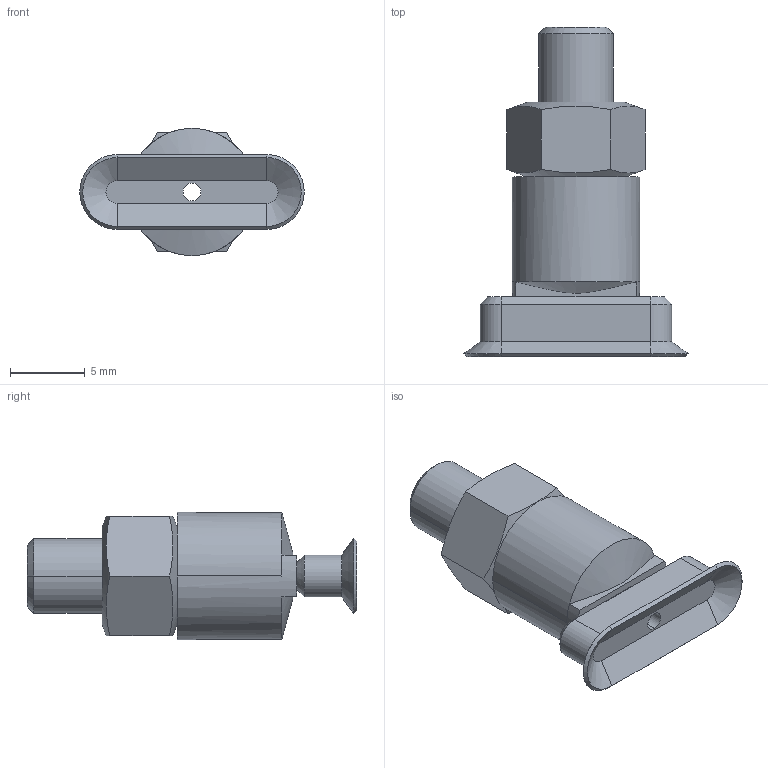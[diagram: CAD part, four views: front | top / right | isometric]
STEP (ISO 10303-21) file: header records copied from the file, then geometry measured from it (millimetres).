
FILE_DESCRIPTION((''),'2;1');
FILE_NAME('1820415121','2015-05-05T',('pma1hc'),(''),'PRO/ENGINEER BY PARAMETRIC TECHNOLOGY CORPORATION, 2011490','PRO/ENGINEER BY PARAMETRIC TECHNOLOGY CORPORATION, 2011490','');
FILE_SCHEMA(('AUTOMOTIVE_DESIGN_CC2 { 1 2 10303 214 -1 1 5 2 }'));
Length unit declared in the file: millimetre
Products named in the file (1): 1820415121
Bounding box: 15 x 22 x 8.5 mm (x, y, z)
Volume: 855.4 mm3; surface area: 879.2 mm2
Topology: 1 solids, 1 shells, 53 faces, 122 edges, 74 vertices
Faces by surface type: plane 27, cone 16, cylinder 10
Entity records: 1697 total; most frequent: CARTESIAN_POINT 487, DIRECTION 252, ORIENTED_EDGE 244, EDGE_CURVE 122, AXIS2_PLACEMENT_3D 95, VERTEX_POINT 74, VECTOR 62, LINE 62
